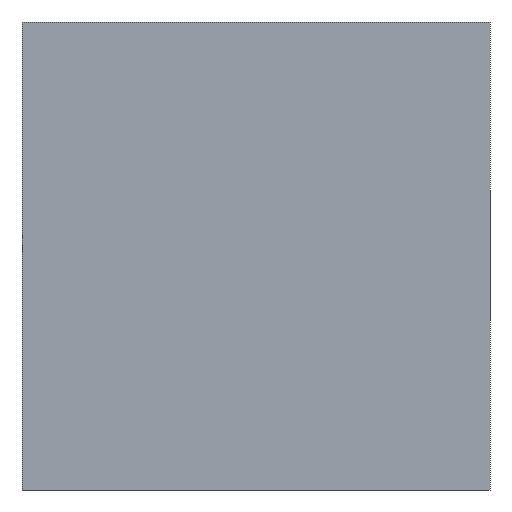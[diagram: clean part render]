
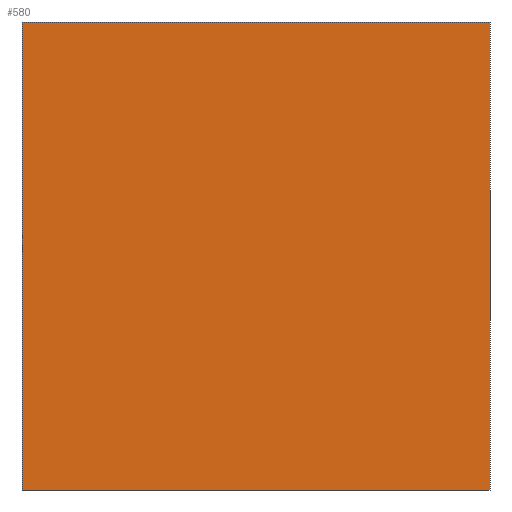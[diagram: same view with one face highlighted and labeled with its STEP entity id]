
A CAD part, left-side view. The second image highlights one B-rep face of the part: STEP entity #580.
In plain terms, the highlighted planar face has unit normal (-1, 0, 0).
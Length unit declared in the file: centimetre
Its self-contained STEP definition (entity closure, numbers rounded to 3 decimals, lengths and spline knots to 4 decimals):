
#30 = EDGE_LOOP ( 'NONE', ( #905, #770, #646, #302 ) ) ;
#36 = DIRECTION ( 'NONE',  ( 1., 0., 0. ) ) ;
#113 = PLANE ( 'NONE',  #793 ) ;
#124 = VERTEX_POINT ( 'NONE', #629 ) ;
#127 = DIRECTION ( 'NONE',  ( 0., 0., -1. ) ) ;
#147 = CARTESIAN_POINT ( 'NONE',  ( 0., 0., 1000. ) ) ;
#193 = VECTOR ( 'NONE', #668, 100. ) ;
#196 = DIRECTION ( 'NONE',  ( 0., 0., -1. ) ) ;
#204 = LINE ( 'NONE', #888, #554 ) ;
#241 = DIRECTION ( 'NONE',  ( 0., -1., 0. ) ) ;
#291 = VERTEX_POINT ( 'NONE', #387 ) ;
#297 = EDGE_CURVE ( 'NONE', #826, #845, #551, .T. ) ;
#302 = ORIENTED_EDGE ( 'NONE', *, *, #675, .T. ) ;
#387 = CARTESIAN_POINT ( 'NONE',  ( 0., 1000., 0. ) ) ;
#416 = CARTESIAN_POINT ( 'NONE',  ( 0., 1000., 1000. ) ) ;
#435 = VECTOR ( 'NONE', #241, 100. ) ;
#492 = CARTESIAN_POINT ( 'NONE',  ( 0., 0., 1000. ) ) ;
#521 = VECTOR ( 'NONE', #536, 100. ) ;
#529 = LINE ( 'NONE', #776, #435 ) ;
#536 = DIRECTION ( 'NONE',  ( 0., -1., 0. ) ) ;
#551 = LINE ( 'NONE', #856, #521 ) ;
#554 = VECTOR ( 'NONE', #127, 100. ) ;
#580 = ADVANCED_FACE ( 'NONE', ( #874 ), #113, .F. ) ;
#583 = EDGE_CURVE ( 'NONE', #845, #124, #985, .T. ) ;
#629 = CARTESIAN_POINT ( 'NONE',  ( 0., 0., 0. ) ) ;
#646 = ORIENTED_EDGE ( 'NONE', *, *, #297, .F. ) ;
#668 = DIRECTION ( 'NONE',  ( 0., 0., -1. ) ) ;
#675 = EDGE_CURVE ( 'NONE', #826, #291, #204, .T. ) ;
#770 = ORIENTED_EDGE ( 'NONE', *, *, #583, .F. ) ;
#776 = CARTESIAN_POINT ( 'NONE',  ( 0., 1000., 0. ) ) ;
#793 = AXIS2_PLACEMENT_3D ( 'NONE', #416, #36, #196 ) ;
#795 = CARTESIAN_POINT ( 'NONE',  ( 0., 1000., 1000. ) ) ;
#811 = EDGE_CURVE ( 'NONE', #291, #124, #529, .T. ) ;
#826 = VERTEX_POINT ( 'NONE', #795 ) ;
#845 = VERTEX_POINT ( 'NONE', #492 ) ;
#856 = CARTESIAN_POINT ( 'NONE',  ( 0., 1000., 1000. ) ) ;
#874 = FACE_OUTER_BOUND ( 'NONE', #30, .T. ) ;
#888 = CARTESIAN_POINT ( 'NONE',  ( 0., 1000., 1000. ) ) ;
#905 = ORIENTED_EDGE ( 'NONE', *, *, #811, .T. ) ;
#985 = LINE ( 'NONE', #147, #193 ) ;
